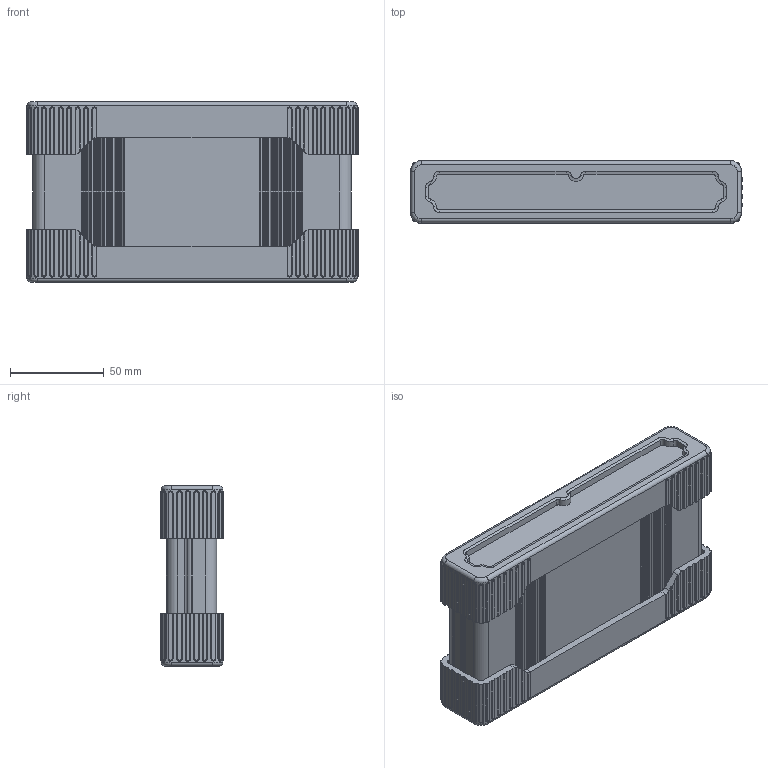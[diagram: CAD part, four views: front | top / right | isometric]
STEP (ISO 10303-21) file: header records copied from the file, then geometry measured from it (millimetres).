
FILE_DESCRIPTION (( 'STEP AP214' ), '1' );
FILE_NAME ('B4S-080 Assembly.STEP', '2019-10-10T18:40:57', ( 'Rudy' ), ( '' ), 'SwSTEP 2.0', 'SolidWorks 2014', '' );
FILE_SCHEMA (( 'AUTOMOTIVE_DESIGN' ));
Length unit declared in the file: inch
Products named in the file (8): B4 End cap; Screw assembly; SEALING WASHER; Torx Screw M3X0.5; B4S-End Plate; SK4S-Sealing Kit; B4-080 Enclosure; B4S-080 Assembly
Assembly tree (19 placements, depth 3):
  B4S-080 Assembly
    B4-080 Enclosure
    SK4S-Sealing Kit  x2
    B4S-End Plate  x2
    Screw assembly  x10
      Torx Screw M3X0.5
      SEALING WASHER
    B4 End cap  x2
Bounding box: 177 x 33.95 x 96 mm (x, y, z)
Volume: 177189.6 mm3; surface area: 146385.4 mm2
Topology: 27 solids, 27 shells, 1965 faces, 5161 edges, 3290 vertices
Faces by surface type: cylinder 867, plane 460, cone 258, torus 240, bspline 140
Entity records: 33205 total; most frequent: CARTESIAN_POINT 7518, DIRECTION 5500, ORIENTED_EDGE 5218, EDGE_CURVE 2609, AXIS2_PLACEMENT_3D 2120, VERTEX_POINT 1676, LINE 1260, VECTOR 1260
